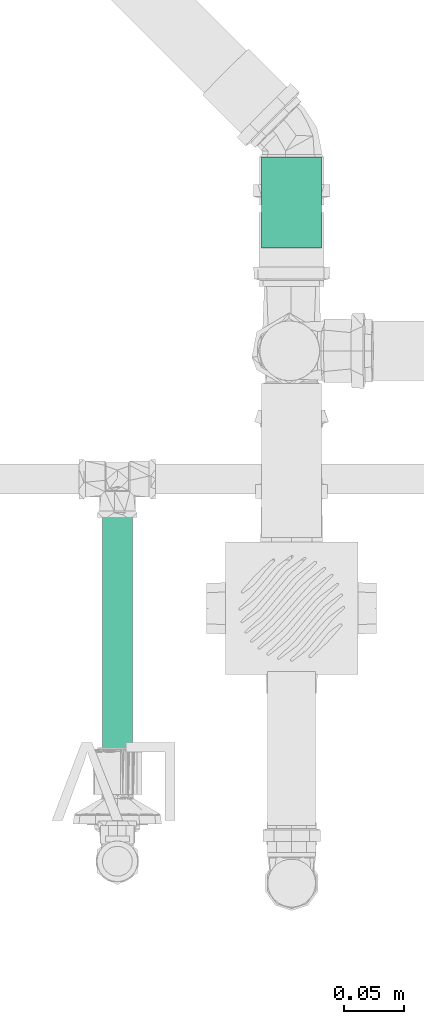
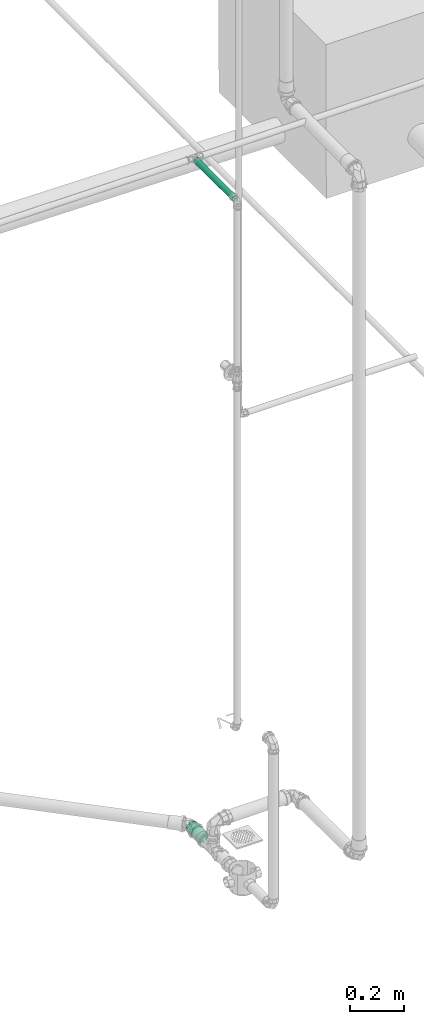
# One storey, part 223 of 589: 2 flow segments.
"""IFC2X3 building model written with IfcOpenShell, lengths in millimetres."""

import ifcopenshell
import ifcopenshell.guid

model = None  # the IFC model being written
_history = None  # IfcOwnerHistory: only IFC2X3 demands one
_inside = {}  # id of a spatial element -> (the spatial element, [elements in it])
_under = {}  # id of a project, library or spatial element -> (it, [spatial elements below it])
_declared = {}  # id of a project -> (the project, [libraries it declares])
_typed = {}  # id of a type object -> (the type object, [elements of that type])
_made_of = {}  # id of a material, layer set ... -> (it, [elements and type objects made of it])


def new_model(schema):
    """Start an empty IFC model of exactly this schema.

    Asked for "IFC4X3", IfcOpenShell would pick the latest addendum, in which some entities
    have other attributes; the version numbers below select the first issue.
    IFC2X3 requires an IfcOwnerHistory on every rooted entity: one is made here for all.
    """
    global model, _history
    if schema == "IFC4X3":
        model = ifcopenshell.file(schema_version=(4, 3, 0, 0))
    else:
        model = ifcopenshell.file(schema=schema)
    _inside.clear()
    _under.clear()
    _declared.clear()
    _typed.clear()
    _made_of.clear()
    _history = None
    if model.schema == "IFC2X3":
        org = make("IfcOrganization", Name="unknown")
        user = make(
            "IfcPersonAndOrganization",
            ThePerson=make("IfcPerson", FamilyName="unknown"),
            TheOrganization=org,
        )
        app = make(
            "IfcApplication",
            ApplicationDeveloper=org,
            Version="unknown",
            ApplicationFullName="unknown",
            ApplicationIdentifier="unknown",
        )
        _history = make(
            "IfcOwnerHistory",
            OwningUser=user,
            OwningApplication=app,
            ChangeAction="ADDED",
            CreationDate=0,
        )
    return model


def make(cls, **values):
    """One entity of the class cls with the attributes given. An attribute that is None is left unset."""
    return model.create_entity(
        cls, **{name: value for name, value in values.items() if value is not None}
    )


def entity(cls, *values):
    """Any entity or typed value of the class cls, its attributes in the order of the schema. None: left unset."""
    e = model.create_entity(cls)
    for i, value in enumerate(values):
        if value is not None:
            e[i] = value
    return e


def rooted(cls, **values):
    """An entity with a GlobalId (a new one), such as an element, a storey or a relation."""
    return make(cls, GlobalId=ifcopenshell.guid.new(), OwnerHistory=_history, **values)


def si_unit(unit_type, name, prefix=None):
    """IfcSIUnit, for example si_unit("LENGTHUNIT", "METRE", prefix="MILLI")."""
    return make("IfcSIUnit", UnitType=unit_type, Prefix=prefix, Name=name)


def converted_unit(unit_type, name, factor, base, dimensions=None, offset=None):
    """IfcConversionBasedUnit, such as the inch: factor (a typed value) times the base unit."""
    return make(
        "IfcConversionBasedUnit"
        if offset is None
        else "IfcConversionBasedUnitWithOffset",
        ConversionOffset=offset,
        Dimensions=None
        if dimensions is None
        else entity("IfcDimensionalExponents", *dimensions),
        UnitType=unit_type,
        Name=name,
        ConversionFactor=make(
            "IfcMeasureWithUnit", ValueComponent=factor, UnitComponent=base
        ),
    )


def derived_unit(unit_type, elements):
    """IfcDerivedUnit: a product of units, each with its exponent."""
    return make(
        "IfcDerivedUnit",
        Elements=[
            make("IfcDerivedUnitElement", Unit=unit, Exponent=power)
            for unit, power in elements
        ],
        UnitType=unit_type,
    )


def assignment(units):
    """IfcUnitAssignment: the units of a project."""
    return None if units is None else make("IfcUnitAssignment", Units=units)


def point(xyz):
    """IfcCartesianPoint."""
    return None if xyz is None else make("IfcCartesianPoint", Coordinates=xyz)


def direction(xyz):
    """IfcDirection."""
    return None if xyz is None else make("IfcDirection", DirectionRatios=xyz)


def frame(location, z_axis=None, x_axis=None):
    """IfcAxis2Placement3D, a coordinate frame: its origin and axes. An axis left out is left unset."""
    return make(
        "IfcAxis2Placement3D",
        Location=point(location),
        Axis=direction(z_axis),
        RefDirection=direction(x_axis),
    )


def frame_2d(location, x_axis=None):
    """IfcAxis2Placement2D, a coordinate frame in the plane: its origin and x axis."""
    return make(
        "IfcAxis2Placement2D", Location=point(location), RefDirection=direction(x_axis)
    )


def origin():
    """The frame at (0, 0, 0) with its axes left unset."""
    return frame((0.0, 0.0, 0.0))


def place(relative_to, where):
    """IfcLocalPlacement: puts the frame where relative to a parent placement (None: the world)."""
    return make(
        "IfcLocalPlacement", PlacementRelTo=relative_to, RelativePlacement=where
    )


def context(
    kind, dimensions, precision=None, world=None, true_north=None, identifier=None
):
    """IfcGeometricRepresentationContext, for example the 3D "Model" context."""
    return make(
        "IfcGeometricRepresentationContext",
        ContextIdentifier=identifier,
        ContextType=kind,
        CoordinateSpaceDimension=dimensions,
        Precision=precision,
        WorldCoordinateSystem=world,
        TrueNorth=true_north,
    )


def subcontext(parent, identifier, kind, view, scale=None):
    """IfcGeometricRepresentationSubContext, for example "Body" below "Model"."""
    return make(
        "IfcGeometricRepresentationSubContext",
        ContextIdentifier=identifier,
        ContextType=kind,
        ParentContext=parent,
        TargetScale=scale,
        TargetView=view,
    )


def project(units=None, contexts=None):
    """IfcProject with its units and contexts."""
    return rooted(
        "IfcProject",
        Name="project",
        RepresentationContexts=contexts,
        UnitsInContext=assignment(units),
    )


def spatial(cls, under=None, at=None, **own):
    """A site, building, storey or space (cls), placed at a placement, below another one or the project."""
    s = rooted(cls, ObjectPlacement=at, **own)
    if under is not None:
        _under.setdefault(under.id(), (under, []))[1].append(s)
    return s


def profile(cls, at=None, kind="AREA", **sizes):
    """A parametric profile (cls). Its sizes go by their IFC names, for example OverallWidth=200.0."""
    return make(cls, ProfileType=kind, Position=at, **sizes)


def circle(**sizes):
    """IfcCircleProfileDef."""
    return profile("IfcCircleProfileDef", **sizes)


def extrude(swept, where, along, depth):
    """IfcExtrudedAreaSolid: the profile swept, set in the frame where, extruded along a direction by depth."""
    return make(
        "IfcExtrudedAreaSolid",
        SweptArea=swept,
        Position=where,
        ExtrudedDirection=direction(along),
        Depth=depth,
    )


def shape(context_of_items, identifier, shape_type, items):
    """IfcShapeRepresentation: the items that make up one representation, for example the "Body"."""
    return make(
        "IfcShapeRepresentation",
        ContextOfItems=context_of_items,
        RepresentationIdentifier=identifier,
        RepresentationType=shape_type,
        Items=items,
    )


def made_of(thing, what):
    """Note that an element or type object is made of a material, layer set ...; save() writes the relation."""
    if what is not None:
        _made_of.setdefault(what.id(), (what, []))[1].append(thing)
    return thing


def type_object(cls, material=None, **own):
    """A type object (cls), such as IfcWallType, which elements share."""
    return made_of(rooted(cls, **own), material)


def element(
    cls,
    number,
    at=None,
    inside=None,
    cuts=None,
    type_object=None,
    material=None,
    context=None,
    identifier="Body",
    shape_type=None,
    held_by="IfcProductDefinitionShape",
    body=None,
    shapes=None,
    **own,
):
    """One element of the class cls, such as IfcWall. Its Tag is "e" and its number.

    at: its placement. inside: the storey or other place that contains it. cuts: it is an
    opening in that element (IfcRelVoidsElement). A single representation is given by context,
    identifier, shape_type and body (its items); several are given by shapes. held_by: the class
    of the entity that holds the representations. save() writes the other relations.
    """
    e = rooted(cls, Tag="e%d" % number, ObjectPlacement=at, **own)
    if body is not None:
        shapes = [shape(context, identifier, shape_type, body)]
    if shapes is not None:
        e.Representation = make(held_by, Representations=shapes)
    if inside is not None:
        _inside.setdefault(inside.id(), (inside, []))[1].append(e)
    if cuts is not None:
        rooted(
            "IfcRelVoidsElement", RelatingBuildingElement=cuts, RelatedOpeningElement=e
        )
    if type_object is not None:
        _typed.setdefault(type_object.id(), (type_object, []))[1].append(e)
    return made_of(e, material)


def aggregate(whole, parts):
    """IfcRelAggregates: a whole, such as a stair, and the parts it consists of."""
    return rooted("IfcRelAggregates", RelatingObject=whole, RelatedObjects=parts)


def save(model, path):
    """Write the relations noted so far, then the file.

    IfcRelAggregates (storeys below a building ...), IfcRelContainedInSpatialStructure (elements
    in a storey), IfcRelDefinesByType, IfcRelAssociatesMaterial and IfcRelDeclares: one each for
    every whole, place, type object, material and project.
    """
    for whole, parts in _under.values():
        aggregate(whole, parts)
    for where, things in _inside.values():
        rooted(
            "IfcRelContainedInSpatialStructure",
            RelatedElements=things,
            RelatingStructure=where,
        )
    for kind, things in _typed.values():
        rooted("IfcRelDefinesByType", RelatedObjects=things, RelatingType=kind)
    for what, things in _made_of.values():
        rooted("IfcRelAssociatesMaterial", RelatedObjects=things, RelatingMaterial=what)
    for by, libraries in _declared.values():
        rooted("IfcRelDeclares", RelatingContext=by, RelatedDefinitions=libraries)
    model.write(path)


model = new_model("IFC2X3")

# Units and contexts
model_context = context("Model", 3, precision=0.01, world=origin(), true_north=direction((6.123031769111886e-17, 1.0)))
body_context = subcontext(model_context, "Body", "Model", "MODEL_VIEW")
ifc_project = project(units=[si_unit("LENGTHUNIT", "METRE", prefix="MILLI"), si_unit("AREAUNIT", "SQUARE_METRE"), si_unit("VOLUMEUNIT", "CUBIC_METRE"), converted_unit("PLANEANGLEUNIT", "DEGREE", entity("IfcRatioMeasure", 0.017453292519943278), si_unit("PLANEANGLEUNIT", "RADIAN"), dimensions=[0, 0, 0, 0, 0, 0, 0]), si_unit("MASSUNIT", "GRAM", prefix="KILO"), derived_unit("MASSDENSITYUNIT", [(si_unit("MASSUNIT", "GRAM", prefix="KILO"), 1), (si_unit("LENGTHUNIT", "METRE"), -3)]), derived_unit("IONCONCENTRATIONUNIT", [(si_unit("MASSUNIT", "GRAM", prefix="KILO"), 1), (si_unit("LENGTHUNIT", "METRE"), -3)]), derived_unit("MOMENTOFINERTIAUNIT", [(si_unit("LENGTHUNIT", "METRE"), 4)]), si_unit("TIMEUNIT", "SECOND"), si_unit("FREQUENCYUNIT", "HERTZ"), si_unit("THERMODYNAMICTEMPERATUREUNIT", "DEGREE_CELSIUS"), derived_unit("THERMALTRANSMITTANCEUNIT", [(si_unit("MASSUNIT", "GRAM", prefix="KILO"), 1), (si_unit("THERMODYNAMICTEMPERATUREUNIT", "KELVIN"), -1), (si_unit("TIMEUNIT", "SECOND"), -3)]), derived_unit("THERMALCONDUCTANCEUNIT", [(si_unit("MASSUNIT", "GRAM", prefix="KILO"), 1), (si_unit("THERMODYNAMICTEMPERATUREUNIT", "KELVIN"), -1), (si_unit("TIMEUNIT", "SECOND"), -3), (si_unit("LENGTHUNIT", "METRE"), 1)]), derived_unit("VOLUMETRICFLOWRATEUNIT", [(si_unit("LENGTHUNIT", "METRE"), 3), (si_unit("TIMEUNIT", "SECOND"), -1)]), derived_unit("MASSFLOWRATEUNIT", [(si_unit("MASSUNIT", "GRAM", prefix="KILO"), 1), (si_unit("TIMEUNIT", "SECOND"), -1)]), derived_unit("ROTATIONALFREQUENCYUNIT", [(si_unit("TIMEUNIT", "SECOND"), -1)]), si_unit("ELECTRICCURRENTUNIT", "AMPERE"), si_unit("ELECTRICVOLTAGEUNIT", "VOLT"), si_unit("POWERUNIT", "WATT"), si_unit("FORCEUNIT", "NEWTON", prefix="KILO"), si_unit("ILLUMINANCEUNIT", "LUX"), si_unit("LUMINOUSFLUXUNIT", "LUMEN"), si_unit("LUMINOUSINTENSITYUNIT", "CANDELA"), derived_unit("USERDEFINED", [(si_unit("MASSUNIT", "GRAM", prefix="KILO"), -1), (si_unit("LENGTHUNIT", "METRE"), -2), (si_unit("TIMEUNIT", "SECOND"), 3), (si_unit("LUMINOUSFLUXUNIT", "LUMEN"), 1)]), derived_unit("USERDEFINED", [(si_unit("MASSUNIT", "GRAM", prefix="KILO"), 1), (si_unit("TIMEUNIT", "SECOND"), -3), (si_unit("LENGTHUNIT", "METRE"), 3), (si_unit("ELECTRICCURRENTUNIT", "AMPERE"), -2)]), derived_unit("SOUNDPOWERUNIT", [(si_unit("MASSUNIT", "GRAM", prefix="KILO"), 1), (si_unit("TIMEUNIT", "SECOND"), -3), (si_unit("LENGTHUNIT", "METRE"), 2)]), derived_unit("SOUNDPRESSUREUNIT", [(si_unit("MASSUNIT", "GRAM", prefix="KILO"), 1), (si_unit("LENGTHUNIT", "METRE"), -1), (si_unit("TIMEUNIT", "SECOND"), -2)]), derived_unit("LINEARVELOCITYUNIT", [(si_unit("LENGTHUNIT", "METRE"), 1), (si_unit("TIMEUNIT", "SECOND"), -1)]), si_unit("PRESSUREUNIT", "PASCAL"), derived_unit("USERDEFINED", [(si_unit("MASSUNIT", "GRAM", prefix="KILO"), 1), (si_unit("LENGTHUNIT", "METRE"), -2), (si_unit("TIMEUNIT", "SECOND"), -2)]), derived_unit("LINEARFORCEUNIT", [(si_unit("MASSUNIT", "GRAM", prefix="KILO"), 1), (si_unit("TIMEUNIT", "SECOND"), -2)]), derived_unit("PLANARFORCEUNIT", [(si_unit("MASSUNIT", "GRAM", prefix="KILO"), 1), (si_unit("LENGTHUNIT", "METRE"), -1), (si_unit("TIMEUNIT", "SECOND"), -2)]), derived_unit("SPECIFICHEATCAPACITYUNIT", [(si_unit("THERMODYNAMICTEMPERATUREUNIT", "KELVIN"), -1), (si_unit("LENGTHUNIT", "METRE"), 2), (si_unit("TIMEUNIT", "SECOND"), -2)]), derived_unit("HEATINGVALUEUNIT", [(si_unit("LENGTHUNIT", "METRE"), 2), (si_unit("TIMEUNIT", "SECOND"), -2)]), derived_unit("VAPORPERMEABILITYUNIT", [(si_unit("LENGTHUNIT", "METRE"), -1), (si_unit("TIMEUNIT", "SECOND"), 1)]), derived_unit("DYNAMICVISCOSITYUNIT", [(si_unit("MASSUNIT", "GRAM", prefix="KILO"), 1), (si_unit("TIMEUNIT", "SECOND"), -1), (si_unit("LENGTHUNIT", "METRE"), -1)]), derived_unit("THERMALEXPANSIONCOEFFICIENTUNIT", [(si_unit("THERMODYNAMICTEMPERATUREUNIT", "KELVIN"), -1)]), derived_unit("MODULUSOFELASTICITYUNIT", [(si_unit("MASSUNIT", "GRAM", prefix="KILO"), 1), (si_unit("LENGTHUNIT", "METRE"), -1), (si_unit("TIMEUNIT", "SECOND"), -2)]), derived_unit("ISOTHERMALMOISTURECAPACITYUNIT", [(si_unit("LENGTHUNIT", "METRE"), 3), (si_unit("MASSUNIT", "GRAM", prefix="KILO"), -1)]), derived_unit("MOISTUREDIFFUSIVITYUNIT", [(si_unit("TIMEUNIT", "SECOND"), -1), (si_unit("LENGTHUNIT", "METRE"), 2)])], contexts=[model_context])

# Site, building, storey
site_placement = place(None, origin())
site = spatial("IfcSite", under=ifc_project, at=site_placement, Name="Default", CompositionType="ELEMENT")
building_placement = place(site_placement, origin())
building = spatial("IfcBuilding", under=site, at=building_placement, CompositionType="ELEMENT")
storey_placement = place(building_placement, frame((0.0, 0.0, 100.0)))
storey = spatial("IfcBuildingStorey", under=building, at=storey_placement, Name="TÉRREO", CompositionType="ELEMENT", Elevation=100.0)

# Flow segments
pipe_segment_type_1 = type_object("IfcPipeSegmentType", Name="Tipos de tubos:PVC Esgoto Série Normal", PredefinedType="NOTDEFINED")
flow_segment_1_placement = place(storey_placement, origin())
element("IfcFlowSegment", 1, at=flow_segment_1_placement, inside=storey, type_object=pipe_segment_type_1, Name="Tipos de tubos:PVC Esgoto Série Normal", ObjectType="Tipos de tubos:PVC Esgoto Série Normal", context=body_context, shape_type="SweptSolid", body=[
    extrude(circle(Radius=25.0, at=frame_2d((0.0, -1.6919798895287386e-14), x_axis=(1.0, 0.0))), frame((13403.0548188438, -1567.658771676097, -251.47787768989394), z_axis=(0.0, 1.0, 0.0), x_axis=(1.0, 0.0, 0.0)), (0.0, 0.0, 1.0), 75.89979945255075),
])
pipe_segment_type_2 = type_object("IfcPipeSegmentType", Name="Tipos de tubos:PVC Marrom Soldável", PredefinedType="NOTDEFINED")
flow_segment_2_placement = place(storey_placement, origin())
element("IfcFlowSegment", 2, at=flow_segment_2_placement, inside=storey, type_object=pipe_segment_type_2, Name="Tipos de tubos:PVC Marrom Soldável", ObjectType="Tipos de tubos:PVC Marrom Soldável", context=body_context, shape_type="SweptSolid", body=[
    extrude(circle(Radius=12.5, at=frame_2d((0.0, -5.414335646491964e-13), x_axis=(1.0, 0.0))), frame((13257.420932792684, -2064.68950136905, 3000.0), z_axis=(0.0, 1.0, 0.0), x_axis=(1.0, 0.0, 0.0)), (0.0, 0.0, 1.0), 289.4080847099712),
])

save(model, "model.ifc")
